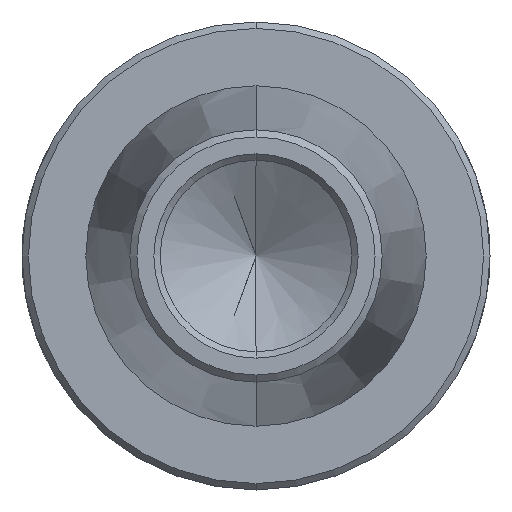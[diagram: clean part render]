
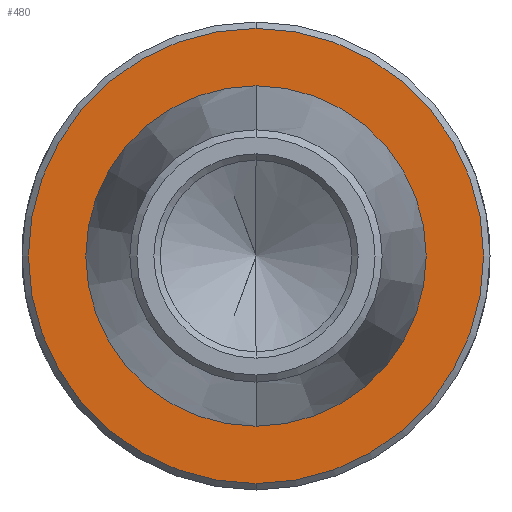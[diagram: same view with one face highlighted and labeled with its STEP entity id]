
A CAD part, front view. The second image highlights one B-rep face of the part: STEP entity #480.
In plain terms, the highlighted planar face has unit normal (0, -1, 0).
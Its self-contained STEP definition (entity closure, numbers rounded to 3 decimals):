
#47 = CARTESIAN_POINT ( 'NONE',  ( 0., 3., -8. ) ) ;
#51 = DIRECTION ( 'NONE',  ( 0., 1., 0. ) ) ;
#54 = CARTESIAN_POINT ( 'NONE',  ( 0., 3., 0. ) ) ;
#59 = CARTESIAN_POINT ( 'NONE',  ( 0., 3., 0. ) ) ;
#84 = CARTESIAN_POINT ( 'NONE',  ( 0., 3., 0. ) ) ;
#85 = EDGE_CURVE ( 'NONE', #843, #380, #390, .T. ) ;
#94 = EDGE_LOOP ( 'NONE', ( #565, #546 ) ) ;
#162 = VERTEX_POINT ( 'NONE', #186 ) ;
#167 = AXIS2_PLACEMENT_3D ( 'NONE', #59, #217, #606 ) ;
#172 = FACE_OUTER_BOUND ( 'NONE', #94, .T. ) ;
#186 = CARTESIAN_POINT ( 'NONE',  ( 0., 3., 10.7 ) ) ;
#217 = DIRECTION ( 'NONE',  ( 0., 1., 0. ) ) ;
#267 = CARTESIAN_POINT ( 'NONE',  ( 0., 3., 8. ) ) ;
#289 = DIRECTION ( 'NONE',  ( 0., -1., 0. ) ) ;
#344 = ORIENTED_EDGE ( 'NONE', *, *, #85, .T. ) ;
#380 = VERTEX_POINT ( 'NONE', #267 ) ;
#390 = CIRCLE ( 'NONE', #482, 8. ) ;
#478 = FACE_BOUND ( 'NONE', #621, .T. ) ;
#480 = ADVANCED_FACE ( 'NONE', ( #172, #478 ), #891, .F. ) ;
#482 = AXIS2_PLACEMENT_3D ( 'NONE', #84, #929, #553 ) ;
#523 = DIRECTION ( 'NONE',  ( 0., -1., 0. ) ) ;
#538 = VERTEX_POINT ( 'NONE', #669 ) ;
#540 = AXIS2_PLACEMENT_3D ( 'NONE', #54, #523, #744 ) ;
#546 = ORIENTED_EDGE ( 'NONE', *, *, #798, .T. ) ;
#553 = DIRECTION ( 'NONE',  ( 0., 0., 1. ) ) ;
#565 = ORIENTED_EDGE ( 'NONE', *, *, #571, .T. ) ;
#571 = EDGE_CURVE ( 'NONE', #162, #538, #706, .T. ) ;
#606 = DIRECTION ( 'NONE',  ( 0., 0., 1. ) ) ;
#621 = EDGE_LOOP ( 'NONE', ( #344, #869 ) ) ;
#664 = CIRCLE ( 'NONE', #901, 10.7 ) ;
#669 = CARTESIAN_POINT ( 'NONE',  ( 0., 3., -10.7 ) ) ;
#678 = CARTESIAN_POINT ( 'NONE',  ( 0., 3., 0. ) ) ;
#706 = CIRCLE ( 'NONE', #540, 10.7 ) ;
#744 = DIRECTION ( 'NONE',  ( 0., 0., 1. ) ) ;
#798 = EDGE_CURVE ( 'NONE', #538, #162, #664, .T. ) ;
#819 = AXIS2_PLACEMENT_3D ( 'NONE', #893, #51, #984 ) ;
#843 = VERTEX_POINT ( 'NONE', #47 ) ;
#869 = ORIENTED_EDGE ( 'NONE', *, *, #904, .T. ) ;
#891 = PLANE ( 'NONE',  #819 ) ;
#893 = CARTESIAN_POINT ( 'NONE',  ( 0., 3., 0. ) ) ;
#898 = DIRECTION ( 'NONE',  ( 0., 0., 1. ) ) ;
#901 = AXIS2_PLACEMENT_3D ( 'NONE', #678, #289, #898 ) ;
#903 = CIRCLE ( 'NONE', #167, 8. ) ;
#904 = EDGE_CURVE ( 'NONE', #380, #843, #903, .T. ) ;
#929 = DIRECTION ( 'NONE',  ( 0., 1., 0. ) ) ;
#984 = DIRECTION ( 'NONE',  ( 0., 0., 1. ) ) ;
